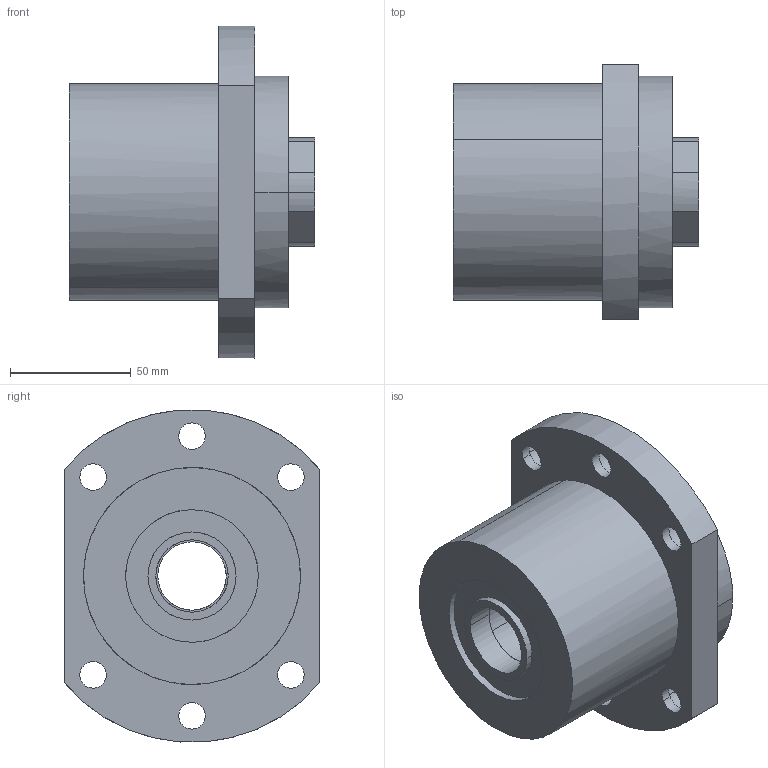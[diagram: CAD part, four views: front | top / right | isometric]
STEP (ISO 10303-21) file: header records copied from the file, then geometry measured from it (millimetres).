
FILE_DESCRIPTION(('CATIA V5 STEP Exchange'),'2;1');
FILE_NAME('D:\서포트 완성도면\FK\FK30DFF.stp','2014-03-26T10:19:42+00:00',('none'),('none'),'CATIA Version 5 Release 18 GA (IN-10)','CATIA V5 STEP AP203','none');
FILE_SCHEMA(('CONFIG_CONTROL_DESIGN'));
Length unit declared in the file: millimetre
Products named in the file (1): FK30DFF
Assembly tree (4 placements, depth 2):
  FK30DFF
    #56
    #2832  x2
    #3108
Bounding box: 102 x 106 x 137.69 mm (x, y, z)
Volume: 606044.4 mm3; surface area: 77069.8 mm2
Topology: 4 solids, 4 shells, 82 faces, 188 edges, 126 vertices
Faces by surface type: cylinder 56, plane 26
Entity records: 3587 total; most frequent: CARTESIAN_POINT 1893, ORIENTED_EDGE 352, DIRECTION 245, EDGE_CURVE 176, VERTEX_POINT 118, EDGE_LOOP 106, AXIS2_PLACEMENT_3D 98, B_SPLINE_CURVE_WITH_KNOTS 81
